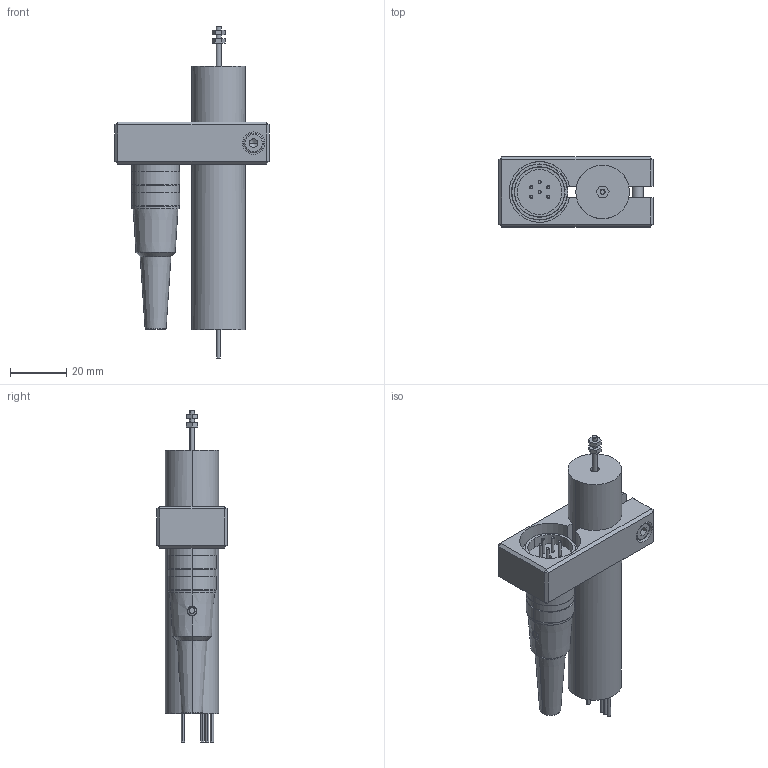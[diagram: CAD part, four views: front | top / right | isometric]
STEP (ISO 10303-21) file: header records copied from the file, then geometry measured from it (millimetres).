
FILE_DESCRIPTION(('STEP AP203'),'1');
FILE_NAME('C:/TPO v2/SharedFS/Outgoing/burster_87243-000-v001_bevqt8ot8ywohaxbc2dkw5xzi.stp','2013-08-26T20:08:11',('TraceParts'),('TraceParts S.A.'),'XStep 1.0',' ',' ');
FILE_SCHEMA(('CONFIG_CONTROL_DESIGN'));
Length unit declared in the file: millimetre
Products named in the file (3): 1; 2; 3
Bounding box: 55 x 25 x 118.5 mm (x, y, z)
Volume: 46318 mm3; surface area: 18452 mm2
Topology: 3 solids, 11 shells, 275 faces, 623 edges, 391 vertices
Faces by surface type: plane 106, cylinder 100, cone 65, torus 2, bspline 2
Entity records: 8139 total; most frequent: CARTESIAN_POINT 1636, DIRECTION 1432, ORIENTED_EDGE 1238, EDGE_CURVE 619, AXIS2_PLACEMENT_3D 562, VERTEX_POINT 391, EDGE_LOOP 320, LINE 308
